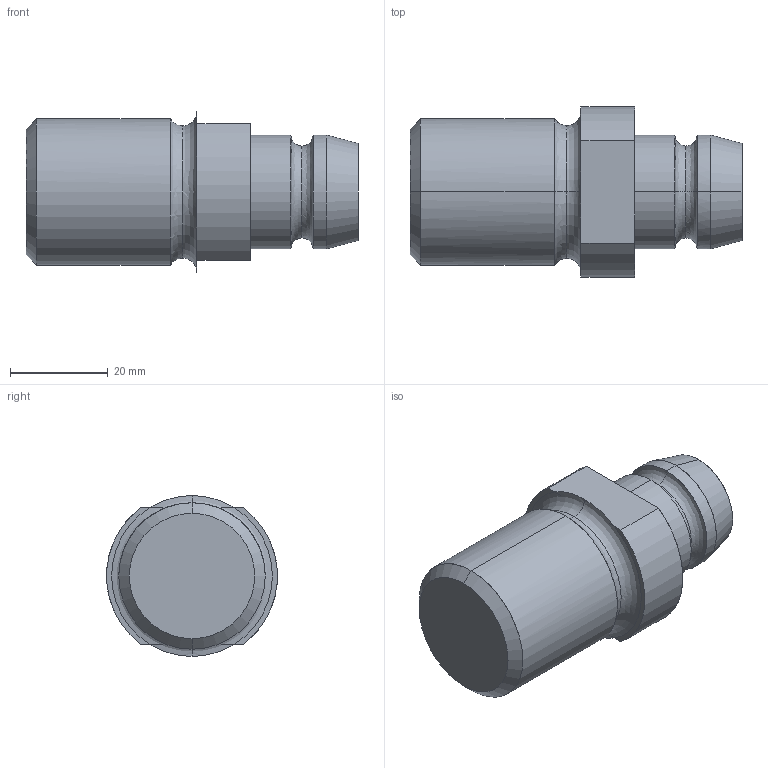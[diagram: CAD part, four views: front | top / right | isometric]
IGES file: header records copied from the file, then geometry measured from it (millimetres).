
Start section: START RECORD GO HERE.
Global section: file name: AGS3411M30.igs; native system: DASSAULT SYSTEMES CATIA V5 R20 - www.3ds.com; preprocessor: CATIA Version 5 Release 20 ; author: Utente; organization: NB04-ASUS; date: 20210221.202435; units: millimetre
Bounding box: 68 x 34.97 x 32.92 mm (x, y, z)
Surface area: 7822.7 mm2 (no closed solid volume)
Topology: 0 solids, 0 shells, 29 faces, 152 edges, 152 vertices
Faces by surface type: revolution 20, plane 9
